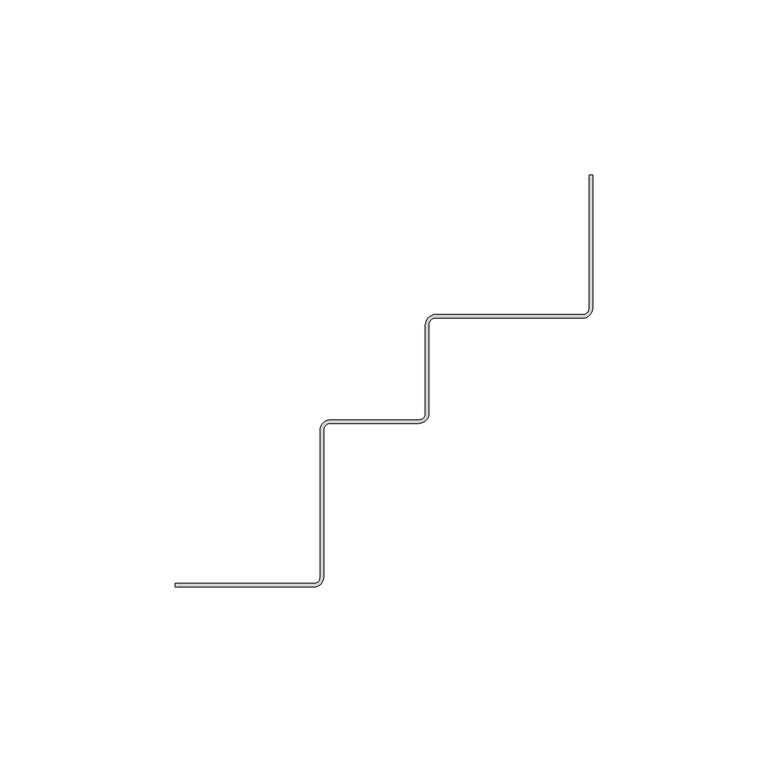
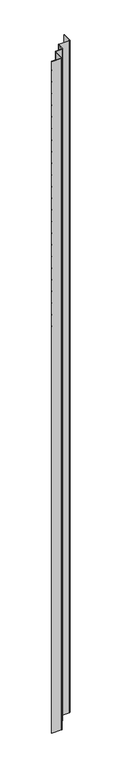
"""IFC4 building model written with IfcOpenShell, lengths in millimetres: proxy geometry, Angle Rentrant H : Angle Rentrant H."""

from ifc_helpers import new_model, si_unit, point, frame_2d, origin, origin_with_axes, place, context, project, spatial, polyline, circle_curve, trimmed, segment, composite_curve, outline, extrude, source, transform, mapped, element, save


def generic_models_bf32fdc3(model_context):
    return source(origin(), model_context, "Body", "SweptSolid", [
        extrude(outline(composite_curve([segment(trimmed(circle_curve(frame_2d((-2.7506849, 79.4601534)), 2.7506849), [point((0.0, 79.4601534))], [point((-2.7506849, 76.7094685))], False, "CARTESIAN"), True, "CONTINUOUS"), segment(polyline([(-2.7506849, 76.7094685), (-44.6919235, 76.7094685)]), True, "CONTINUOUS"), segment(trimmed(circle_curve(frame_2d((-44.6919235, 74.7096397)), 1.9998288), [point((-44.6919235, 76.7094685))], [point((-46.6917522, 74.7096397))], True, "CARTESIAN"), True, "CONTINUOUS"), segment(polyline([(-46.6917522, 74.7096397), (-46.6917522, 49.4404915)]), True, "CONTINUOUS"), segment(trimmed(circle_curve(frame_2d((-49.4417951, 49.4404915)), 2.7500428), [point((-46.6917522, 49.4404915))], [point((-49.4417951, 46.6904487))], False, "CARTESIAN"), True, "CONTINUOUS"), segment(polyline([(-49.4417951, 46.6904487), (-74.6886356, 46.6904487)]), True, "CONTINUOUS"), segment(trimmed(circle_curve(frame_2d((-74.6886356, 44.6904595)), 1.9999892), [point((-74.6886356, 46.6904487))], [point((-76.6886248, 44.6904595))], True, "CARTESIAN"), True, "CONTINUOUS"), segment(polyline([(-76.6886248, 44.6904595), (-76.6886248, 2.750003)]), True, "CONTINUOUS"), segment(trimmed(circle_curve(frame_2d((-79.4386278, 2.750003)), 2.750003), [point((-76.6886248, 2.750003))], [point((-79.4386278, 0.0))], False, "CARTESIAN"), True, "CONTINUOUS"), segment(polyline([(-79.4386278, 0.0), (-118.9386303, 0.0), (-118.9386303, 1.0), (-79.4386278, 1.0)]), True, "CONTINUOUS"), segment(trimmed(circle_curve(frame_2d((-79.4386278, 2.750003)), 1.750003), [point((-79.4386278, 1.0))], [point((-77.6886248, 2.750003))], True, "CARTESIAN"), True, "CONTINUOUS"), segment(polyline([(-77.6886248, 2.750003), (-77.6886248, 44.6904595)]), True, "CONTINUOUS"), segment(trimmed(circle_curve(frame_2d((-74.6886356, 44.6904595)), 2.9999892), [point((-77.6886248, 44.6904595))], [point((-74.6886356, 47.6904487))], False, "CARTESIAN"), True, "CONTINUOUS"), segment(polyline([(-74.6886356, 47.6904487), (-49.4417951, 47.6904487)]), True, "CONTINUOUS"), segment(trimmed(circle_curve(frame_2d((-49.4417951, 49.4404915)), 1.7500428), [point((-49.4417951, 47.6904487))], [point((-47.6917522, 49.4404915))], True, "CARTESIAN"), True, "CONTINUOUS"), segment(polyline([(-47.6917522, 49.4404915), (-47.6917522, 74.7096397)]), True, "CONTINUOUS"), segment(trimmed(circle_curve(frame_2d((-44.6919235, 74.7096397)), 2.9998288), [point((-47.6917522, 74.7096397))], [point((-44.6919235, 77.7094685))], False, "CARTESIAN"), True, "CONTINUOUS"), segment(polyline([(-44.6919235, 77.7094685), (-2.7506849, 77.7094685)]), True, "CONTINUOUS"), segment(trimmed(circle_curve(frame_2d((-2.7506849, 79.4601534)), 1.7506849), [point((-2.7506849, 77.7094685))], [point((-1.0, 79.4601534))], True, "CARTESIAN"), True, "CONTINUOUS"), segment(polyline([(-1.0, 79.4601534), (-1.0, 117.440002), (0.0, 117.440002), (0.0, 79.4601534)]), True, "CONTINUOUS")], self_intersect=False)), origin_with_axes(), (0.0, 0.0, 1.0), 2850.0),
    ])


if __name__ == "__main__":
    model = new_model("IFC4")
    model_context = context("Model", 3, world=origin())
    ifc_project = project(units=[si_unit("LENGTHUNIT", "METRE", prefix="MILLI")], contexts=[model_context])
    site = spatial("IfcSite", under=ifc_project)
    building = spatial("IfcBuilding", under=site)
    placement = place(None, origin())
    generic_models_shape = generic_models_bf32fdc3(model_context)
    element("IfcBuildingElementProxy", 1, Name="Angle Rentrant H : Angle Rentrant H", ObjectType="Angle Rentrant H : Angle Rentrant H", at=placement, inside=building, context=model_context, shape_type="MappedRepresentation", body=[
        mapped(generic_models_shape, transform((0.0, 0.0, 0.0), x_axis=(1.0, 0.0, 0.0), y_axis=(0.0, 1.0, 0.0), z_axis=(0.0, 0.0, 1.0))),
    ])
    save(model, "model.ifc")
